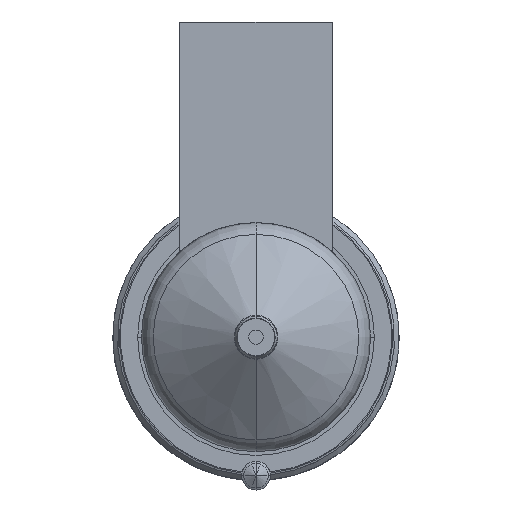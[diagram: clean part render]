
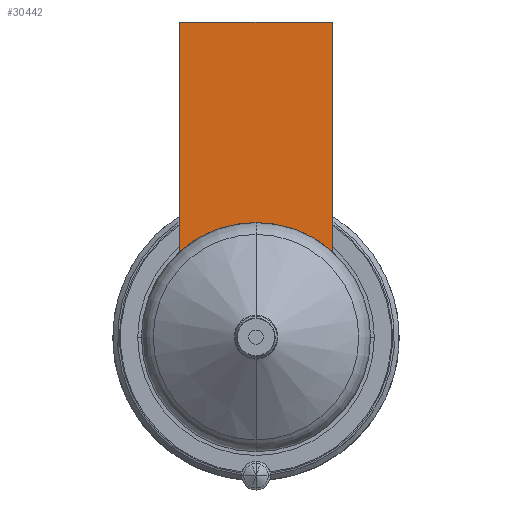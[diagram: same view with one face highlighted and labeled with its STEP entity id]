
A CAD part, front view. The second image highlights one B-rep face of the part: STEP entity #30442.
In plain terms, the highlighted planar face has unit normal (0, -1, 0).
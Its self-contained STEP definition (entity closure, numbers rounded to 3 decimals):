
#29762=DIRECTION('',(0.,0.,-1.));
#29763=VECTOR('',#29762,24.056);
#29764=CARTESIAN_POINT('',(-8.,-56.,33.));
#29765=LINE('',#29764,#29763);
#29802=DIRECTION('',(1.,0.,0.));
#29803=VECTOR('',#29802,16.);
#29804=CARTESIAN_POINT('',(-8.,-56.,33.));
#29805=LINE('',#29804,#29803);
#29809=CARTESIAN_POINT('',(0.,-56.,0.));
#29810=DIRECTION('',(0.,-1.,0.));
#29811=DIRECTION('',(0.667,0.,0.745));
#29812=AXIS2_PLACEMENT_3D('',#29809,#29810,#29811);
#29817=CARTESIAN_POINT('',(0.,-56.,0.));
#29818=DIRECTION('',(0.,-1.,0.));
#29819=DIRECTION('',(0.,0.,1.));
#29820=AXIS2_PLACEMENT_3D('',#29817,#29818,#29819);
#29853=DIRECTION('',(0.,0.,-1.));
#29854=VECTOR('',#29853,24.056);
#29855=CARTESIAN_POINT('',(8.,-56.,33.));
#29856=LINE('',#29855,#29854);
#30306=CARTESIAN_POINT('',(-8.,-56.,33.));
#30307=VERTEX_POINT('',#30306);
#30312=CARTESIAN_POINT('',(8.,-56.,33.));
#30313=VERTEX_POINT('',#30312);
#30316=CARTESIAN_POINT('',(-8.,-56.,8.944));
#30317=VERTEX_POINT('',#30316);
#30320=CARTESIAN_POINT('',(8.,-56.,8.944));
#30321=VERTEX_POINT('',#30320);
#30361=CARTESIAN_POINT('',(0.,-56.,12.));
#30362=VERTEX_POINT('',#30361);
#30427=CARTESIAN_POINT('',(-8.,-56.,33.));
#30428=DIRECTION('',(0.,-1.,0.));
#30429=DIRECTION('',(0.,0.,-1.));
#30430=AXIS2_PLACEMENT_3D('',#30427,#30428,#30429);
#30431=PLANE('',#30430);
#30432=ORIENTED_EDGE('',*,*,#30375,.F.);
#30434=ORIENTED_EDGE('',*,*,#30433,.T.);
#30436=ORIENTED_EDGE('',*,*,#30435,.T.);
#30438=ORIENTED_EDGE('',*,*,#30437,.T.);
#30439=ORIENTED_EDGE('',*,*,#30407,.T.);
#30440=EDGE_LOOP('',(#30432,#30434,#30436,#30438,#30439));
#30441=FACE_OUTER_BOUND('',#30440,.F.);
#30442=ADVANCED_FACE('',(#30441),#30431,.T.);
#29813=CIRCLE('',#29812,12.);
#29821=CIRCLE('',#29820,12.);
#30375=EDGE_CURVE('',#30307,#30317,#29765,.T.);
#30407=EDGE_CURVE('',#30362,#30317,#29821,.T.);
#30433=EDGE_CURVE('',#30307,#30313,#29805,.T.);
#30435=EDGE_CURVE('',#30313,#30321,#29856,.T.);
#30437=EDGE_CURVE('',#30321,#30362,#29813,.T.);
